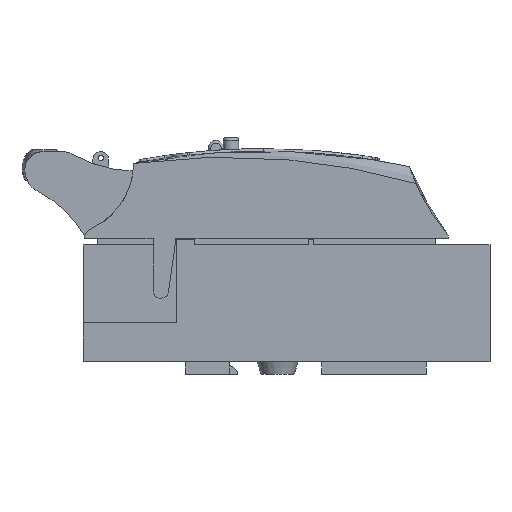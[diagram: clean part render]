
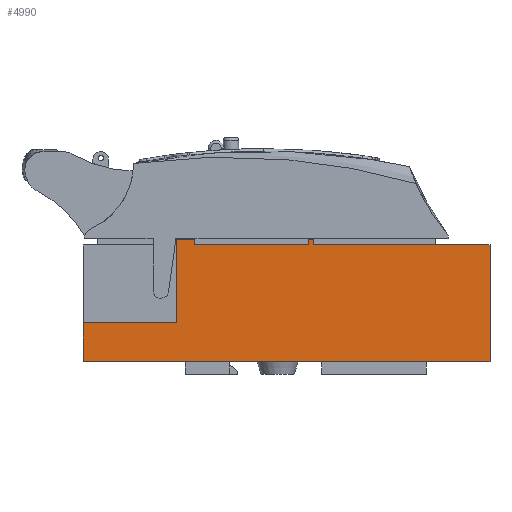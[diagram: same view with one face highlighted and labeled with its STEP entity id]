
A CAD part, front view. The second image highlights one B-rep face of the part: STEP entity #4990.
In plain terms, the highlighted planar face has unit normal (0, -1, 0).
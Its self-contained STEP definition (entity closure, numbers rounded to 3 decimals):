
#3995=PLANE('',#13836);
#4470=FACE_OUTER_BOUND('',#7696,.T.);
#4990=ADVANCED_FACE('',(#4470),#3995,.F.);
#5850=LINE('',#20543,#6837);
#5930=LINE('',#20716,#6917);
#6044=LINE('',#20945,#7031);
#6045=LINE('',#20948,#7032);
#6046=LINE('',#20949,#7033);
#6047=LINE('',#20951,#7034);
#6048=LINE('',#20953,#7035);
#6049=LINE('',#20955,#7036);
#6050=LINE('',#20957,#7037);
#6051=LINE('',#20959,#7038);
#6052=LINE('',#20960,#7039);
#6053=LINE('',#20962,#7040);
#6837=VECTOR('',#15546,1.);
#6917=VECTOR('',#15686,1.);
#7031=VECTOR('',#15878,1.);
#7032=VECTOR('',#15879,1.);
#7033=VECTOR('',#15880,1.);
#7034=VECTOR('',#15881,1.);
#7035=VECTOR('',#15882,1.);
#7036=VECTOR('',#15883,1.);
#7037=VECTOR('',#15884,1.);
#7038=VECTOR('',#15885,1.);
#7039=VECTOR('',#15886,1.);
#7040=VECTOR('',#15887,1.);
#7696=EDGE_LOOP('',(#10158,#10159,#10160,#10161,#10162,#10163,#10164,#10165,
#10166,#10167,#10168,#10169));
#10158=ORIENTED_EDGE('',*,*,#12986,.F.);
#10159=ORIENTED_EDGE('',*,*,#12987,.T.);
#10160=ORIENTED_EDGE('',*,*,#12786,.T.);
#10161=ORIENTED_EDGE('',*,*,#12988,.F.);
#10162=ORIENTED_EDGE('',*,*,#12989,.F.);
#10163=ORIENTED_EDGE('',*,*,#12990,.F.);
#10164=ORIENTED_EDGE('',*,*,#12991,.F.);
#10165=ORIENTED_EDGE('',*,*,#12992,.T.);
#10166=ORIENTED_EDGE('',*,*,#12993,.F.);
#10167=ORIENTED_EDGE('',*,*,#12872,.F.);
#10168=ORIENTED_EDGE('',*,*,#12994,.F.);
#10169=ORIENTED_EDGE('',*,*,#12995,.F.);
#11561=VERTEX_POINT('',#20542);
#11562=VERTEX_POINT('',#20544);
#11623=VERTEX_POINT('',#20713);
#11624=VERTEX_POINT('',#20715);
#11701=VERTEX_POINT('',#20946);
#11702=VERTEX_POINT('',#20947);
#11703=VERTEX_POINT('',#20950);
#11704=VERTEX_POINT('',#20952);
#11705=VERTEX_POINT('',#20954);
#11706=VERTEX_POINT('',#20956);
#11707=VERTEX_POINT('',#20958);
#11708=VERTEX_POINT('',#20961);
#12786=EDGE_CURVE('',#11562,#11561,#5850,.T.);
#12872=EDGE_CURVE('',#11624,#11623,#5930,.T.);
#12986=EDGE_CURVE('',#11701,#11702,#6044,.T.);
#12987=EDGE_CURVE('',#11701,#11562,#6045,.T.);
#12988=EDGE_CURVE('',#11703,#11561,#6046,.T.);
#12989=EDGE_CURVE('',#11704,#11703,#6047,.T.);
#12990=EDGE_CURVE('',#11705,#11704,#6048,.T.);
#12991=EDGE_CURVE('',#11706,#11705,#6049,.T.);
#12992=EDGE_CURVE('',#11706,#11707,#6050,.T.);
#12993=EDGE_CURVE('',#11623,#11707,#6051,.T.);
#12994=EDGE_CURVE('',#11708,#11624,#6052,.T.);
#12995=EDGE_CURVE('',#11702,#11708,#6053,.T.);
#13836=AXIS2_PLACEMENT_3D('',#20963,#15888,#15889);
#15546=DIRECTION('',(1.,0.,0.));
#15686=DIRECTION('',(0.,0.,-1.));
#15878=DIRECTION('',(1.,0.,0.));
#15879=DIRECTION('',(0.,0.,-1.));
#15880=DIRECTION('',(0.,0.,-1.));
#15881=DIRECTION('',(1.,0.,0.));
#15882=DIRECTION('',(0.,0.,-1.));
#15883=DIRECTION('',(1.,0.,0.));
#15884=DIRECTION('',(0.,0.,-1.));
#15885=DIRECTION('',(1.,0.,0.));
#15886=DIRECTION('',(1.,0.,0.));
#15887=DIRECTION('',(0.,0.,1.));
#15888=DIRECTION('',(0.,1.,0.));
#15889=DIRECTION('',(0.,0.,1.));
#20542=CARTESIAN_POINT('',(82.,-44.5,-25.979));
#20543=CARTESIAN_POINT('',(-75.,-44.5,-25.979));
#20544=CARTESIAN_POINT('',(-75.,-44.5,-25.979));
#20713=CARTESIAN_POINT('',(-32.,-44.5,19.021));
#20715=CARTESIAN_POINT('',(-32.,-44.5,21.021));
#20716=CARTESIAN_POINT('',(-32.,-44.5,21.021));
#20945=CARTESIAN_POINT('',(-75.,-44.5,-10.979));
#20946=CARTESIAN_POINT('',(-75.,-44.5,-10.979));
#20947=CARTESIAN_POINT('',(-39.,-44.5,-10.979));
#20948=CARTESIAN_POINT('',(-75.,-44.5,19.021));
#20949=CARTESIAN_POINT('',(82.,-44.5,19.021));
#20950=CARTESIAN_POINT('',(82.,-44.5,19.021));
#20951=CARTESIAN_POINT('',(-75.,-44.5,19.021));
#20952=CARTESIAN_POINT('',(14.,-44.5,19.021));
#20953=CARTESIAN_POINT('',(14.,-44.5,21.021));
#20954=CARTESIAN_POINT('',(14.,-44.5,21.021));
#20955=CARTESIAN_POINT('',(14.,-44.5,21.021));
#20956=CARTESIAN_POINT('',(12.,-44.5,21.021));
#20957=CARTESIAN_POINT('',(12.,-44.5,21.021));
#20958=CARTESIAN_POINT('',(12.,-44.5,19.021));
#20959=CARTESIAN_POINT('',(-75.,-44.5,19.021));
#20960=CARTESIAN_POINT('',(-39.,-44.5,21.021));
#20961=CARTESIAN_POINT('',(-39.,-44.5,21.021));
#20962=CARTESIAN_POINT('',(-39.,-44.5,19.021));
#20963=CARTESIAN_POINT('',(-75.,-44.5,19.021));
